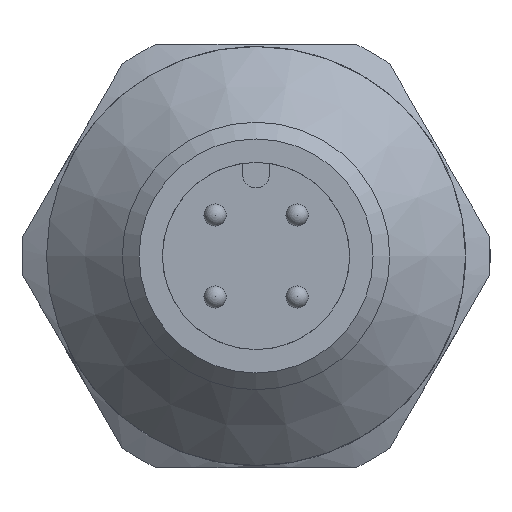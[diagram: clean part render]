
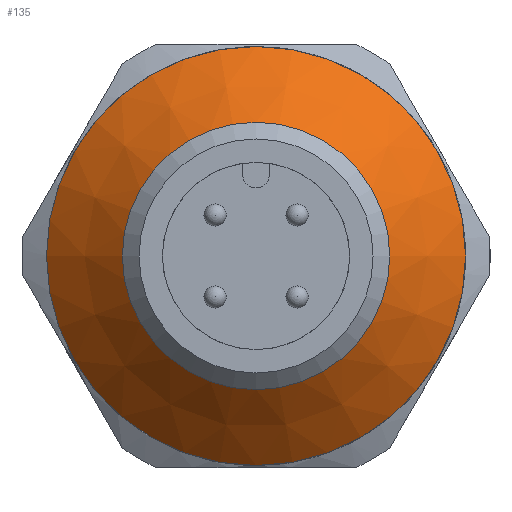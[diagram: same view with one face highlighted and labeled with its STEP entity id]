
A CAD part, left-side view. The second image highlights one B-rep face of the part: STEP entity #135.
In plain terms, the highlighted conical face has half-angle 45 degrees and reference radius 6 mm.
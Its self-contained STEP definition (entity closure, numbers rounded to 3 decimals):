
#135 = ADVANCED_FACE( '', ( #326, #327 ), #328, .T. );
#326 = FACE_OUTER_BOUND( '', #603, .T. );
#327 = FACE_BOUND( '', #604, .T. );
#328 = CONICAL_SURFACE( '', #605, 6., 0.785 );
#603 = EDGE_LOOP( '', ( #917 ) );
#604 = EDGE_LOOP( '', ( #918 ) );
#605 = AXIS2_PLACEMENT_3D( '', #919, #920, #921 );
#917 = ORIENTED_EDGE( '', *, *, #1345, .F. );
#918 = ORIENTED_EDGE( '', *, *, #1346, .T. );
#919 = CARTESIAN_POINT( '', ( -45.979, 0., 0. ) );
#920 = DIRECTION( '', ( 1., 0., 0. ) );
#921 = DIRECTION( '', ( 0., -1., 0. ) );
#1345 = EDGE_CURVE( '', #1546, #1546, #1547, .T. );
#1346 = EDGE_CURVE( '', #1548, #1548, #1549, .T. );
#1546 = VERTEX_POINT( '', #1821 );
#1547 = CIRCLE( '', #1822, 9.4 );
#1548 = VERTEX_POINT( '', #1823 );
#1549 = CIRCLE( '', #1824, 6. );
#1821 = CARTESIAN_POINT( '', ( -42.579, -9.4, 0. ) );
#1822 = AXIS2_PLACEMENT_3D( '', #2169, #2170, #2171 );
#1823 = CARTESIAN_POINT( '', ( -45.979, -6., 0. ) );
#1824 = AXIS2_PLACEMENT_3D( '', #2172, #2173, #2174 );
#2169 = CARTESIAN_POINT( '', ( -42.579, 0., 0. ) );
#2170 = DIRECTION( '', ( 1., 0., 0. ) );
#2171 = DIRECTION( '', ( 0., -1., 0. ) );
#2172 = CARTESIAN_POINT( '', ( -45.979, 0., 0. ) );
#2173 = DIRECTION( '', ( 1., 0., 0. ) );
#2174 = DIRECTION( '', ( 0., -1., 0. ) );
